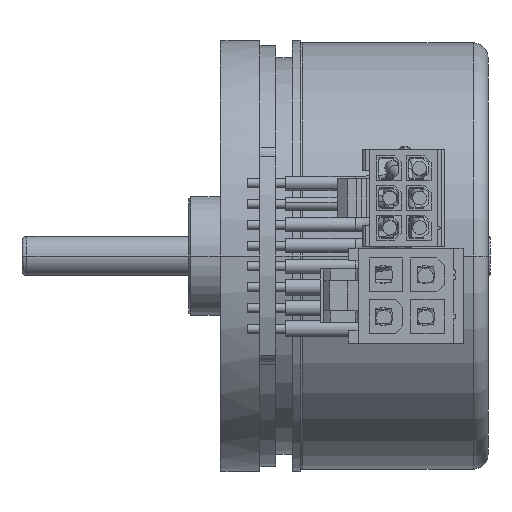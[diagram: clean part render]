
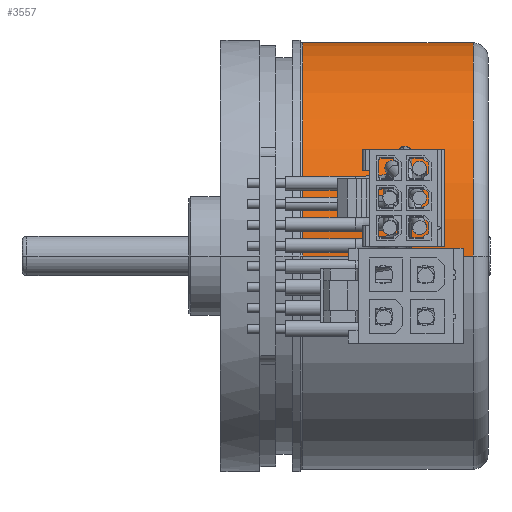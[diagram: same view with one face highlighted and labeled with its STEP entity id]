
A CAD part, front view. The second image highlights one B-rep face of the part: STEP entity #3557.
In plain terms, the highlighted cylindrical face has radius 21.5 mm (diameter 43 mm), a partial arc.
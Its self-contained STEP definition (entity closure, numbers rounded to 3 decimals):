
#621=CARTESIAN_POINT('',(25.5,0.,0.));
#622=DIRECTION('',(1.,0.,0.));
#623=DIRECTION('',(0.,1.,0.));
#624=AXIS2_PLACEMENT_3D('',#621,#622,#623);
#629=CARTESIAN_POINT('',(8.3,0.,0.));
#630=DIRECTION('',(1.,0.,0.));
#631=DIRECTION('',(0.,1.,0.));
#632=AXIS2_PLACEMENT_3D('',#629,#630,#631);
#637=DIRECTION('',(-1.,0.,0.));
#638=VECTOR('',#637,17.2);
#639=CARTESIAN_POINT('',(25.5,21.5,0.));
#640=LINE('',#639,#638);
#652=DIRECTION('',(-1.,0.,0.));
#653=VECTOR('',#652,17.2);
#654=CARTESIAN_POINT('',(25.5,-21.5,0.));
#655=LINE('',#654,#653);
#2863=CARTESIAN_POINT('',(25.5,21.5,0.));
#2865=VERTEX_POINT('',#2863);
#2871=CARTESIAN_POINT('',(25.5,-21.5,0.));
#2873=VERTEX_POINT('',#2871);
#2956=CARTESIAN_POINT('',(8.3,21.5,0.));
#2957=VERTEX_POINT('',#2956);
#2958=CARTESIAN_POINT('',(8.3,-21.5,0.));
#2959=VERTEX_POINT('',#2958);
#3543=CARTESIAN_POINT('',(0.,0.,0.));
#3544=DIRECTION('',(1.,0.,0.));
#3545=DIRECTION('',(0.,-1.,0.));
#3546=AXIS2_PLACEMENT_3D('',#3543,#3544,#3545);
#3547=CYLINDRICAL_SURFACE('',#3546,21.5);
#3549=ORIENTED_EDGE('',*,*,#3548,.F.);
#3550=ORIENTED_EDGE('',*,*,#3538,.T.);
#3552=ORIENTED_EDGE('',*,*,#3551,.T.);
#3554=ORIENTED_EDGE('',*,*,#3553,.F.);
#3555=EDGE_LOOP('',(#3549,#3550,#3552,#3554));
#3556=FACE_OUTER_BOUND('',#3555,.F.);
#3557=ADVANCED_FACE('',(#3556),#3547,.T.);
#625=CIRCLE('',#624,21.5);
#633=CIRCLE('',#632,21.5);
#3538=EDGE_CURVE('',#2865,#2873,#625,.T.);
#3548=EDGE_CURVE('',#2865,#2957,#640,.T.);
#3551=EDGE_CURVE('',#2873,#2959,#655,.T.);
#3553=EDGE_CURVE('',#2957,#2959,#633,.T.);
